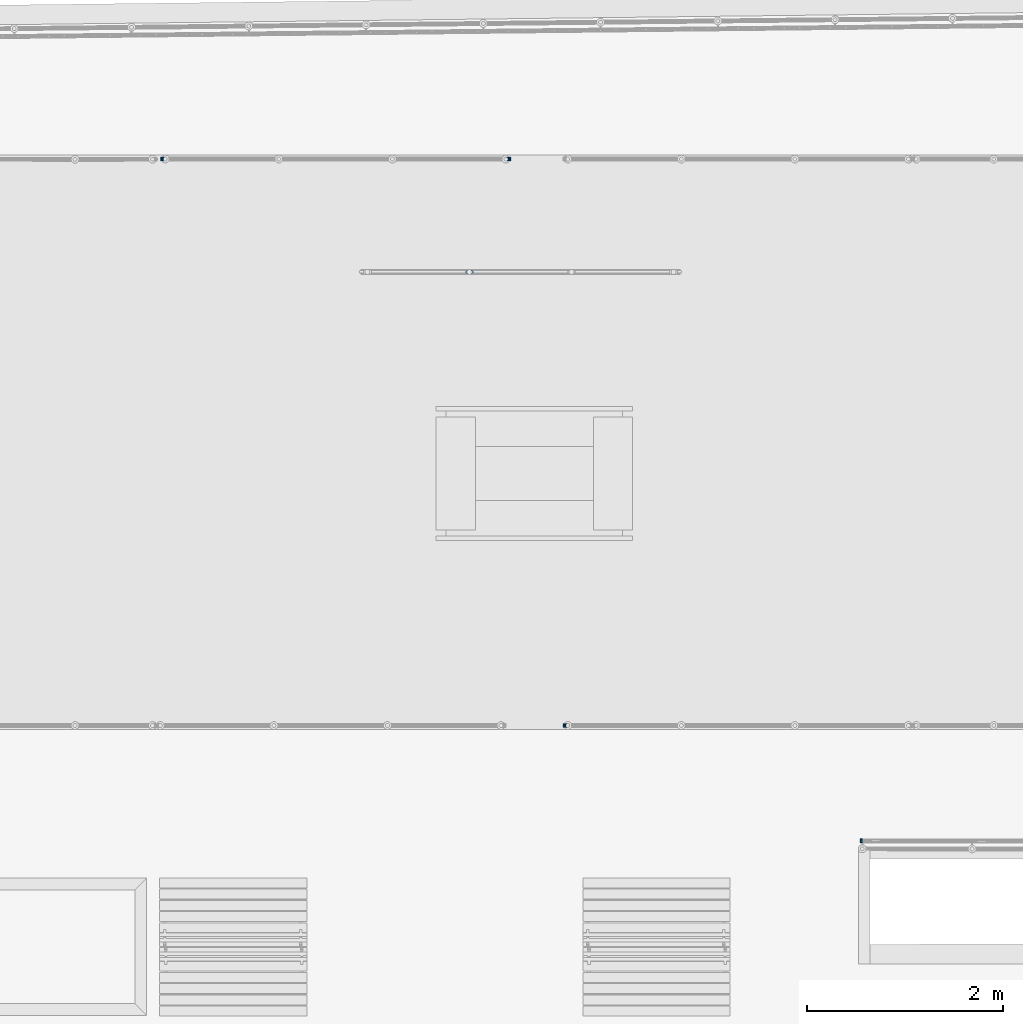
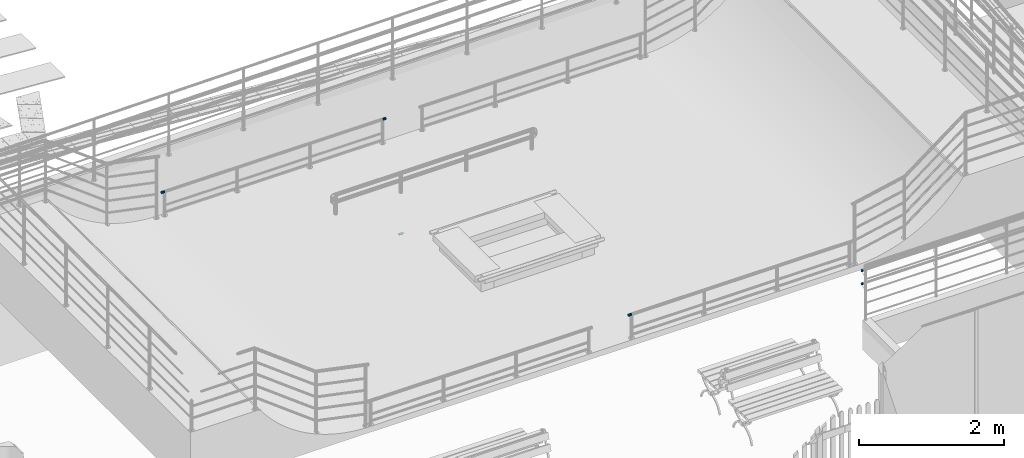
# One storey, part 141 of 237: 6 building element parts, 4 elements without a shape of their own.
"""IFC2X3 building model written with IfcOpenShell, lengths in millimetres."""

from ifc_helpers import new_model, entity, si_unit, converted_unit, derived_unit, money_unit, direction, frame, origin_with_axes, place, context, subcontext, project, spatial, faceted_brep, material, type_object, element, aggregate, save


model = new_model("IFC2X3")

# Units and contexts
model_context = context("Model", 3, precision=0.01, world=origin_with_axes(), true_north=direction((0.0, 1.0)))
body_context = subcontext(model_context, "Body", "Model", "MODEL_VIEW")
ifc_project = project(units=[si_unit("LENGTHUNIT", "METRE", prefix="MILLI"), si_unit("AREAUNIT", "SQUARE_METRE"), si_unit("VOLUMEUNIT", "CUBIC_METRE"), converted_unit("PLANEANGLEUNIT", "DEGREE", entity("IfcPlaneAngleMeasure", 0.0174532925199), si_unit("PLANEANGLEUNIT", "RADIAN"), dimensions=[0, 0, 0, 0, 0, 0, 0]), money_unit("USD"), converted_unit("TIMEUNIT", "Year", entity("IfcTimeMeasure", 31556926.0), si_unit("TIMEUNIT", "SECOND"), dimensions=[0, 0, 1, 0, 0, 0, 0]), si_unit("MASSUNIT", "GRAM", prefix="KILO"), si_unit("THERMODYNAMICTEMPERATUREUNIT", "DEGREE_CELSIUS"), si_unit("LUMINOUSINTENSITYUNIT", "LUMEN"), si_unit("ENERGYUNIT", "JOULE", prefix="MEGA"), derived_unit("THERMALCONDUCTANCEUNIT", [(si_unit("POWERUNIT", "WATT"), 1), (si_unit("LENGTHUNIT", "METRE"), -1), (si_unit("THERMODYNAMICTEMPERATUREUNIT", "KELVIN"), -1)]), derived_unit("SPECIFICHEATCAPACITYUNIT", [(si_unit("ENERGYUNIT", "JOULE"), 1), (si_unit("MASSUNIT", "GRAM", prefix="KILO"), -1), (si_unit("THERMODYNAMICTEMPERATUREUNIT", "KELVIN"), -1)]), derived_unit("MASSDENSITYUNIT", [(si_unit("MASSUNIT", "GRAM", prefix="KILO"), 1), (si_unit("VOLUMEUNIT", "CUBIC_METRE"), -1)])], contexts=[model_context])

# Site, building, storey
site_placement = place(None, origin_with_axes())
site = spatial("IfcSite", under=ifc_project, at=site_placement, Name="Local", CompositionType="ELEMENT")
building_placement = place(site_placement, origin_with_axes())
building = spatial("IfcBuilding", under=site, at=building_placement, Name="Construção", CompositionType="ELEMENT")
storey_placement = place(building_placement, origin_with_axes())
storey = spatial("IfcBuildingStorey", under=building, at=storey_placement, Name="Pavimento Térreo", CompositionType="ELEMENT", Elevation=0.0)

# Railing, building element parts
railing_type = type_object("IfcRailingType", Name="Tipo de Guarda-Corpo", PredefinedType="NOTDEFINED")
railing_1_placement = place(storey_placement, frame((57512.4440926, 33894.9362539, -1887.10818411), z_axis=(0.0, 0.0, 1.0), x_axis=(-1.0, 0.0, 0.0)))
railing_1 = element("IfcRailing", 1, at=railing_1_placement, inside=storey, type_object=railing_type, Name="Guarda-Corpo - 002", PredefinedType="NOTDEFINED")
ifc_material_1 = material(Name="Aço - Inoxidável")
building_element_part_1_placement = place(railing_1_placement, origin_with_axes())
building_element_part_1 = element("IfcBuildingElementPart", 2, at=building_element_part_1_placement, material=ifc_material_1, Name="Aço - Inoxidável", context=body_context, shape_type="Brep", body=[
    faceted_brep([(40.0, 20.0, 1030.0), (40.0, 20.3038449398, 1033.47296355), (-10.0, 20.3038449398, 1033.47296355), (-10.0, 20.0, 1030.0), (40.0, 20.3038449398, 1026.52703645), (40.0, 21.2061475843, 1023.15959713), (40.0, 22.6794919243, 1020.0), (40.0, 24.6791111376, 1017.14424781), (40.0, 27.1442478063, 1014.67911114), (40.0, 30.0, 1012.67949192), (40.0, 33.1595971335, 1011.20614758), (40.0, 36.5270364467, 1010.30384494), (40.0, 40.0, 1010.0), (40.0, 43.4729635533, 1010.30384494), (40.0, 46.8404028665, 1011.20614758), (40.0, 50.0, 1012.67949192), (40.0, 52.8557521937, 1014.67911114), (40.0, 55.3208888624, 1017.14424781), (40.0, 57.3205080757, 1020.0), (40.0, 58.7938524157, 1023.15959713), (40.0, 59.6961550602, 1026.52703645), (40.0, 60.0, 1030.0), (40.0, 59.6961550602, 1033.47296355), (40.0, 58.7938524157, 1036.84040287), (40.0, 57.3205080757, 1040.0), (40.0, 55.3208888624, 1042.85575219), (40.0, 52.8557521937, 1045.32088886), (40.0, 50.0, 1047.32050808), (40.0, 46.8404028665, 1048.79385242), (40.0, 43.4729635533, 1049.69615506), (40.0, 40.0, 1050.0), (40.0, 36.5270364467, 1049.69615506), (40.0, 33.1595971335, 1048.79385242), (40.0, 30.0, 1047.32050808), (40.0, 27.1442478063, 1045.32088886), (40.0, 24.6791111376, 1042.85575219), (40.0, 22.6794919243, 1040.0), (40.0, 21.2061475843, 1036.84040287), (-10.0, 21.2061475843, 1036.84040287), (-10.0, 22.6794919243, 1040.0), (-10.0, 24.6791111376, 1042.85575219), (-10.0, 27.1442478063, 1045.32088886), (-10.0, 30.0, 1047.32050808), (-10.0, 33.1595971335, 1048.79385242), (-10.0, 36.5270364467, 1049.69615506), (-10.0, 40.0, 1050.0), (-10.0, 43.4729635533, 1049.69615506), (-10.0, 46.8404028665, 1048.79385242), (-10.0, 50.0, 1047.32050808), (-10.0, 52.8557521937, 1045.32088886), (-10.0, 55.3208888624, 1042.85575219), (-10.0, 57.3205080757, 1040.0), (-10.0, 58.7938524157, 1036.84040287), (-10.0, 59.6961550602, 1033.47296355), (-10.0, 60.0, 1030.0), (-10.0, 59.6961550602, 1026.52703645), (-10.0, 58.7938524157, 1023.15959713), (-10.0, 57.3205080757, 1020.0), (-10.0, 55.3208888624, 1017.14424781), (-10.0, 52.8557521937, 1014.67911114), (-10.0, 50.0, 1012.67949192), (-10.0, 46.8404028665, 1011.20614758), (-10.0, 43.4729635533, 1010.30384494), (-10.0, 40.0, 1010.0), (-10.0, 36.5270364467, 1010.30384494), (-10.0, 33.1595971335, 1011.20614758), (-10.0, 30.0, 1012.67949192), (-10.0, 27.1442478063, 1014.67911114), (-10.0, 24.6791111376, 1017.14424781), (-10.0, 22.6794919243, 1020.0), (-10.0, 21.2061475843, 1023.15959713), (-10.0, 20.3038449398, 1026.52703645)], [[[0, 1, 2, 3]], [[0, 4, 5, 6, 7, 8, 9, 10, 11, 12, 13, 14, 15, 16, 17, 18, 19, 20, 21, 22, 23, 24, 25, 26, 27, 28, 29, 30, 31, 32, 33, 34, 35, 36, 37, 1]], [[1, 37, 38, 2]], [[3, 2, 38, 39, 40, 41, 42, 43, 44, 45, 46, 47, 48, 49, 50, 51, 52, 53, 54, 55, 56, 57, 58, 59, 60, 61, 62, 63, 64, 65, 66, 67, 68, 69, 70, 71]], [[4, 0, 3, 71]], [[5, 4, 71, 70]], [[6, 5, 70, 69]], [[7, 6, 69, 68]], [[8, 7, 68, 67]], [[9, 8, 67, 66]], [[10, 9, 66, 65]], [[11, 10, 65, 64]], [[12, 11, 64, 63]], [[13, 12, 63, 62]], [[14, 13, 62, 61]], [[15, 14, 61, 60]], [[16, 15, 60, 59]], [[17, 16, 59, 58]], [[18, 17, 58, 57]], [[19, 18, 57, 56]], [[20, 19, 56, 55]], [[21, 20, 55, 54]], [[22, 21, 54, 53]], [[23, 22, 53, 52]], [[24, 23, 52, 51]], [[25, 24, 51, 50]], [[26, 25, 50, 49]], [[27, 26, 49, 48]], [[28, 27, 48, 47]], [[29, 28, 47, 46]], [[30, 29, 46, 45]], [[31, 30, 45, 44]], [[32, 31, 44, 43]], [[33, 32, 43, 42]], [[34, 33, 42, 41]], [[35, 34, 41, 40]], [[36, 35, 40, 39]], [[37, 36, 39, 38]]]),
])
building_element_part_2_placement = place(railing_1_placement, origin_with_axes())
building_element_part_2 = element("IfcBuildingElementPart", 3, at=building_element_part_2_placement, material=ifc_material_1, Name="Aço - Inoxidável", context=body_context, shape_type="Brep", body=[
    faceted_brep([(3510.0, 60.0, 1030.0), (3510.0, 59.6961550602, 1033.47296355), (3560.0, 59.6961550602, 1033.47296355), (3560.0, 60.0, 1030.0), (3510.0, 59.6961550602, 1026.52703645), (3510.0, 58.7938524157, 1023.15959713), (3510.0, 57.3205080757, 1020.0), (3510.0, 55.3208888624, 1017.14424781), (3510.0, 52.8557521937, 1014.67911114), (3510.0, 50.0, 1012.67949192), (3510.0, 46.8404028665, 1011.20614758), (3510.0, 43.4729635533, 1010.30384494), (3510.0, 40.0, 1010.0), (3510.0, 36.5270364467, 1010.30384494), (3510.0, 33.1595971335, 1011.20614758), (3510.0, 30.0, 1012.67949192), (3510.0, 27.1442478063, 1014.67911114), (3510.0, 24.6791111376, 1017.14424781), (3510.0, 22.6794919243, 1020.0), (3510.0, 21.2061475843, 1023.15959713), (3510.0, 20.3038449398, 1026.52703645), (3510.0, 20.0, 1030.0), (3510.0, 20.3038449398, 1033.47296355), (3510.0, 21.2061475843, 1036.84040287), (3510.0, 22.6794919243, 1040.0), (3510.0, 24.6791111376, 1042.85575219), (3510.0, 27.1442478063, 1045.32088886), (3510.0, 30.0, 1047.32050808), (3510.0, 33.1595971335, 1048.79385242), (3510.0, 36.5270364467, 1049.69615506), (3510.0, 40.0, 1050.0), (3510.0, 43.4729635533, 1049.69615506), (3510.0, 46.8404028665, 1048.79385242), (3510.0, 50.0, 1047.32050808), (3510.0, 52.8557521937, 1045.32088886), (3510.0, 55.3208888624, 1042.85575219), (3510.0, 57.3205080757, 1040.0), (3510.0, 58.7938524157, 1036.84040287), (3560.0, 58.7938524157, 1036.84040287), (3560.0, 57.3205080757, 1040.0), (3560.0, 55.3208888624, 1042.85575219), (3560.0, 52.8557521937, 1045.32088886), (3560.0, 50.0, 1047.32050808), (3560.0, 46.8404028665, 1048.79385242), (3560.0, 43.4729635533, 1049.69615506), (3560.0, 40.0, 1050.0), (3560.0, 36.5270364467, 1049.69615506), (3560.0, 33.1595971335, 1048.79385242), (3560.0, 30.0, 1047.32050808), (3560.0, 27.1442478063, 1045.32088886), (3560.0, 24.6791111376, 1042.85575219), (3560.0, 22.6794919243, 1040.0), (3560.0, 21.2061475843, 1036.84040287), (3560.0, 20.3038449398, 1033.47296355), (3560.0, 20.0, 1030.0), (3560.0, 20.3038449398, 1026.52703645), (3560.0, 21.2061475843, 1023.15959713), (3560.0, 22.6794919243, 1020.0), (3560.0, 24.6791111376, 1017.14424781), (3560.0, 27.1442478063, 1014.67911114), (3560.0, 30.0, 1012.67949192), (3560.0, 33.1595971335, 1011.20614758), (3560.0, 36.5270364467, 1010.30384494), (3560.0, 40.0, 1010.0), (3560.0, 43.4729635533, 1010.30384494), (3560.0, 46.8404028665, 1011.20614758), (3560.0, 50.0, 1012.67949192), (3560.0, 52.8557521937, 1014.67911114), (3560.0, 55.3208888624, 1017.14424781), (3560.0, 57.3205080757, 1020.0), (3560.0, 58.7938524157, 1023.15959713), (3560.0, 59.6961550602, 1026.52703645)], [[[0, 1, 2, 3]], [[0, 4, 5, 6, 7, 8, 9, 10, 11, 12, 13, 14, 15, 16, 17, 18, 19, 20, 21, 22, 23, 24, 25, 26, 27, 28, 29, 30, 31, 32, 33, 34, 35, 36, 37, 1]], [[1, 37, 38, 2]], [[3, 2, 38, 39, 40, 41, 42, 43, 44, 45, 46, 47, 48, 49, 50, 51, 52, 53, 54, 55, 56, 57, 58, 59, 60, 61, 62, 63, 64, 65, 66, 67, 68, 69, 70, 71]], [[4, 0, 3, 71]], [[5, 4, 71, 70]], [[6, 5, 70, 69]], [[7, 6, 69, 68]], [[8, 7, 68, 67]], [[9, 8, 67, 66]], [[10, 9, 66, 65]], [[11, 10, 65, 64]], [[12, 11, 64, 63]], [[13, 12, 63, 62]], [[14, 13, 62, 61]], [[15, 14, 61, 60]], [[16, 15, 60, 59]], [[17, 16, 59, 58]], [[18, 17, 58, 57]], [[19, 18, 57, 56]], [[20, 19, 56, 55]], [[21, 20, 55, 54]], [[22, 21, 54, 53]], [[23, 22, 53, 52]], [[24, 23, 52, 51]], [[25, 24, 51, 50]], [[26, 25, 50, 49]], [[27, 26, 49, 48]], [[28, 27, 48, 47]], [[29, 28, 47, 46]], [[30, 29, 46, 45]], [[31, 30, 45, 44]], [[32, 31, 44, 43]], [[33, 32, 43, 42]], [[34, 33, 42, 41]], [[35, 34, 41, 40]], [[36, 35, 40, 39]], [[37, 36, 39, 38]]]),
])
aggregate(railing_1, [building_element_part_1, building_element_part_2])

# Railing, building element part
railing_2_placement = place(storey_placement, frame((58062.4440926, 28006.4497128, -1887.10818411), z_axis=(0.0, 0.0, 1.0), x_axis=(1.0, 0.0, 0.0)))
railing_2 = element("IfcRailing", 4, at=railing_2_placement, inside=storey, type_object=railing_type, Name="Guarda-Corpo - 002", PredefinedType="NOTDEFINED")
building_element_part_3_placement = place(railing_2_placement, origin_with_axes())
building_element_part_3 = element("IfcBuildingElementPart", 5, at=building_element_part_3_placement, material=ifc_material_1, Name="Aço - Inoxidável", context=body_context, shape_type="Brep", body=[
    faceted_brep([(40.0, 58.4865411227, 1030.0), (40.0, 58.7903860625, 1033.47296355), (-10.0, 58.7903860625, 1033.47296355), (-10.0, 58.4865411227, 1030.0), (40.0, 58.7903860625, 1026.52703645), (40.0, 59.692688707, 1023.15959713), (40.0, 61.166033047, 1020.0), (40.0, 63.1656522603, 1017.14424781), (40.0, 65.630788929, 1014.67911114), (40.0, 68.4865411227, 1012.67949192), (40.0, 71.6461382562, 1011.20614758), (40.0, 75.0135775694, 1010.30384494), (40.0, 78.4865411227, 1010.0), (40.0, 81.9595046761, 1010.30384494), (40.0, 85.3269439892, 1011.20614758), (40.0, 88.4865411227, 1012.67949192), (40.0, 91.3422933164, 1014.67911114), (40.0, 93.8074299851, 1017.14424781), (40.0, 95.8070491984, 1020.0), (40.0, 97.2803935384, 1023.15959713), (40.0, 98.182696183, 1026.52703645), (40.0, 98.4865411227, 1030.0), (40.0, 98.182696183, 1033.47296355), (40.0, 97.2803935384, 1036.84040287), (40.0, 95.8070491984, 1040.0), (40.0, 93.8074299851, 1042.85575219), (40.0, 91.3422933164, 1045.32088886), (40.0, 88.4865411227, 1047.32050808), (40.0, 85.3269439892, 1048.79385242), (40.0, 81.9595046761, 1049.69615506), (40.0, 78.4865411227, 1050.0), (40.0, 75.0135775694, 1049.69615506), (40.0, 71.6461382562, 1048.79385242), (40.0, 68.4865411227, 1047.32050808), (40.0, 65.630788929, 1045.32088886), (40.0, 63.1656522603, 1042.85575219), (40.0, 61.166033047, 1040.0), (40.0, 59.692688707, 1036.84040287), (-10.0, 59.692688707, 1036.84040287), (-10.0, 61.166033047, 1040.0), (-10.0, 63.1656522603, 1042.85575219), (-10.0, 65.630788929, 1045.32088886), (-10.0, 68.4865411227, 1047.32050808), (-10.0, 71.6461382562, 1048.79385242), (-10.0, 75.0135775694, 1049.69615506), (-10.0, 78.4865411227, 1050.0), (-10.0, 81.9595046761, 1049.69615506), (-10.0, 85.3269439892, 1048.79385242), (-10.0, 88.4865411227, 1047.32050808), (-10.0, 91.3422933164, 1045.32088886), (-10.0, 93.8074299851, 1042.85575219), (-10.0, 95.8070491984, 1040.0), (-10.0, 97.2803935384, 1036.84040287), (-10.0, 98.182696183, 1033.47296355), (-10.0, 98.4865411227, 1030.0), (-10.0, 98.182696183, 1026.52703645), (-10.0, 97.2803935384, 1023.15959713), (-10.0, 95.8070491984, 1020.0), (-10.0, 93.8074299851, 1017.14424781), (-10.0, 91.3422933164, 1014.67911114), (-10.0, 88.4865411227, 1012.67949192), (-10.0, 85.3269439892, 1011.20614758), (-10.0, 81.9595046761, 1010.30384494), (-10.0, 78.4865411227, 1010.0), (-10.0, 75.0135775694, 1010.30384494), (-10.0, 71.6461382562, 1011.20614758), (-10.0, 68.4865411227, 1012.67949192), (-10.0, 65.630788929, 1014.67911114), (-10.0, 63.1656522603, 1017.14424781), (-10.0, 61.166033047, 1020.0), (-10.0, 59.692688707, 1023.15959713), (-10.0, 58.7903860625, 1026.52703645)], [[[0, 1, 2, 3]], [[0, 4, 5, 6, 7, 8, 9, 10, 11, 12, 13, 14, 15, 16, 17, 18, 19, 20, 21, 22, 23, 24, 25, 26, 27, 28, 29, 30, 31, 32, 33, 34, 35, 36, 37, 1]], [[1, 37, 38, 2]], [[3, 2, 38, 39, 40, 41, 42, 43, 44, 45, 46, 47, 48, 49, 50, 51, 52, 53, 54, 55, 56, 57, 58, 59, 60, 61, 62, 63, 64, 65, 66, 67, 68, 69, 70, 71]], [[4, 0, 3, 71]], [[5, 4, 71, 70]], [[6, 5, 70, 69]], [[7, 6, 69, 68]], [[8, 7, 68, 67]], [[9, 8, 67, 66]], [[10, 9, 66, 65]], [[11, 10, 65, 64]], [[12, 11, 64, 63]], [[13, 12, 63, 62]], [[14, 13, 62, 61]], [[15, 14, 61, 60]], [[16, 15, 60, 59]], [[17, 16, 59, 58]], [[18, 17, 58, 57]], [[19, 18, 57, 56]], [[20, 19, 56, 55]], [[21, 20, 55, 54]], [[22, 21, 54, 53]], [[23, 22, 53, 52]], [[24, 23, 52, 51]], [[25, 24, 51, 50]], [[26, 25, 50, 49]], [[27, 26, 49, 48]], [[28, 27, 48, 47]], [[29, 28, 47, 46]], [[30, 29, 46, 45]], [[31, 30, 45, 44]], [[32, 31, 44, 43]], [[33, 32, 43, 42]], [[34, 33, 42, 41]], [[35, 34, 41, 40]], [[36, 35, 40, 39]], [[37, 36, 39, 38]]]),
])
aggregate(railing_2, [building_element_part_3])

# Railing, building element parts
railing_3_placement = place(storey_placement, frame((70326.6870103, 28675.2458388, -1357.10819655), z_axis=(0.0, 0.0, 1.0), x_axis=(1.0, 0.0, 0.0)))
railing_3 = element("IfcRailing", 6, at=railing_3_placement, inside=storey, type_object=railing_type, Name="Guarda-Corpo - 004", PredefinedType="NOTDEFINED")
building_element_part_4_placement = place(railing_3_placement, origin_with_axes())
building_element_part_4 = element("IfcBuildingElementPart", 7, at=building_element_part_4_placement, material=ifc_material_1, Name="Aço - Inoxidável", context=body_context, shape_type="Brep", body=[
    faceted_brep([(-9224.23455608, -1785.53730312, 680.0), (-9224.23407093, -1785.23345857, 683.472963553), (-9244.23404544, -1785.20152474, 683.472963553), (-9244.23453059, -1785.50536929, 680.0), (-9224.23407093, -1785.23345857, 676.527036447), (-9224.23263023, -1784.33115707, 673.159597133), (-9224.23027776, -1782.85781461, 670.0), (-9224.22708498, -1780.85819795, 667.144247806), (-9224.22314892, -1778.39306442, 664.679111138), (-9224.21858916, -1775.53731587, 662.679491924), (-9224.21354426, -1772.37772276, 661.206147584), (-9224.2081675, -1769.01028774, 660.30384494), (-9224.20262225, -1765.53732861, 660.0), (-9224.197077, -1762.06436949, 660.30384494), (-9224.19170024, -1758.69693447, 661.206147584), (-9224.18665533, -1755.53734136, 662.679491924), (-9224.18209558, -1752.68159281, 664.679111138), (-9224.17815952, -1750.21645928, 667.144247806), (-9224.17496674, -1748.21684262, 670.0), (-9224.17261427, -1746.74350015, 673.159597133), (-9224.17117357, -1745.84119866, 676.527036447), (-9224.17068842, -1745.53735411, 680.0), (-9224.17117357, -1745.84119866, 683.472963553), (-9224.17261427, -1746.74350015, 686.840402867), (-9224.17496674, -1748.21684262, 690.0), (-9224.17815952, -1750.21645928, 692.855752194), (-9224.18209558, -1752.68159281, 695.320888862), (-9224.18665533, -1755.53734136, 697.320508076), (-9224.19170024, -1758.69693447, 698.793852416), (-9224.197077, -1762.06436949, 699.69615506), (-9224.20262225, -1765.53732861, 700.0), (-9224.2081675, -1769.01028774, 699.69615506), (-9224.21354426, -1772.37772276, 698.793852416), (-9224.21858916, -1775.53731587, 697.320508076), (-9224.22314892, -1778.39306442, 695.320888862), (-9224.22708498, -1780.85819795, 692.855752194), (-9224.23027776, -1782.85781461, 690.0), (-9224.23263023, -1784.33115707, 686.840402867), (-9244.23260474, -1784.29922324, 686.840402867), (-9244.23025226, -1782.82588078, 690.0), (-9244.22705949, -1780.82626412, 692.855752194), (-9244.22312343, -1778.36113059, 695.320888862), (-9244.21856367, -1775.50538204, 697.320508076), (-9244.21351877, -1772.34578893, 698.793852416), (-9244.20814201, -1768.97835391, 699.69615506), (-9244.20259676, -1765.50539478, 700.0), (-9244.1970515, -1762.03243566, 699.69615506), (-9244.19167474, -1758.66500064, 698.793852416), (-9244.18662984, -1755.50540753, 697.320508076), (-9244.18207008, -1752.64965898, 695.320888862), (-9244.17813402, -1750.18452545, 692.855752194), (-9244.17494125, -1748.18490879, 690.0), (-9244.17258877, -1746.71156632, 686.840402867), (-9244.17114807, -1745.80926483, 683.472963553), (-9244.17066293, -1745.50542028, 680.0), (-9244.17114807, -1745.80926483, 676.527036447), (-9244.17258877, -1746.71156632, 673.159597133), (-9244.17494125, -1748.18490879, 670.0), (-9244.17813402, -1750.18452545, 667.144247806), (-9244.18207008, -1752.64965898, 664.679111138), (-9244.18662984, -1755.50540753, 662.679491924), (-9244.19167474, -1758.66500064, 661.206147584), (-9244.1970515, -1762.03243566, 660.30384494), (-9244.20259676, -1765.50539478, 660.0), (-9244.20814201, -1768.97835391, 660.30384494), (-9244.21351877, -1772.34578893, 661.206147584), (-9244.21856367, -1775.50538204, 662.679491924), (-9244.22312343, -1778.36113059, 664.679111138), (-9244.22705949, -1780.82626412, 667.144247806), (-9244.23025226, -1782.82588078, 670.0), (-9244.23260474, -1784.29922324, 673.159597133), (-9244.23404544, -1785.20152474, 676.527036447)], [[[0, 1, 2, 3]], [[0, 4, 5, 6, 7, 8, 9, 10, 11, 12, 13, 14, 15, 16, 17, 18, 19, 20, 21, 22, 23, 24, 25, 26, 27, 28, 29, 30, 31, 32, 33, 34, 35, 36, 37, 1]], [[1, 37, 38, 2]], [[3, 2, 38, 39, 40, 41, 42, 43, 44, 45, 46, 47, 48, 49, 50, 51, 52, 53, 54, 55, 56, 57, 58, 59, 60, 61, 62, 63, 64, 65, 66, 67, 68, 69, 70, 71]], [[4, 0, 3, 71]], [[5, 4, 71, 70]], [[6, 5, 70, 69]], [[7, 6, 69, 68]], [[8, 7, 68, 67]], [[9, 8, 67, 66]], [[10, 9, 66, 65]], [[11, 10, 65, 64]], [[12, 11, 64, 63]], [[13, 12, 63, 62]], [[14, 13, 62, 61]], [[15, 14, 61, 60]], [[16, 15, 60, 59]], [[17, 16, 59, 58]], [[18, 17, 58, 57]], [[19, 18, 57, 56]], [[20, 19, 56, 55]], [[21, 20, 55, 54]], [[22, 21, 54, 53]], [[23, 22, 53, 52]], [[24, 23, 52, 51]], [[25, 24, 51, 50]], [[26, 25, 50, 49]], [[27, 26, 49, 48]], [[28, 27, 48, 47]], [[29, 28, 47, 46]], [[30, 29, 46, 45]], [[31, 30, 45, 44]], [[32, 31, 44, 43]], [[33, 32, 43, 42]], [[34, 33, 42, 41]], [[35, 34, 41, 40]], [[36, 35, 40, 39]], [[37, 36, 39, 38]]]),
])
building_element_part_5_placement = place(railing_3_placement, origin_with_axes())
building_element_part_5 = element("IfcBuildingElementPart", 8, at=building_element_part_5_placement, material=ifc_material_1, Name="Aço - Inoxidável", context=body_context, shape_type="Brep", body=[
    faceted_brep([(-9224.23455608, -1785.53730312, 900.0), (-9224.23407093, -1785.23345857, 903.472963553), (-9244.23404544, -1785.20152474, 903.472963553), (-9244.23453059, -1785.50536929, 900.0), (-9224.23407093, -1785.23345857, 896.527036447), (-9224.23263023, -1784.33115707, 893.159597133), (-9224.23027776, -1782.85781461, 890.0), (-9224.22708498, -1780.85819795, 887.144247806), (-9224.22314892, -1778.39306442, 884.679111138), (-9224.21858916, -1775.53731587, 882.679491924), (-9224.21354426, -1772.37772276, 881.206147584), (-9224.2081675, -1769.01028774, 880.30384494), (-9224.20262225, -1765.53732861, 880.0), (-9224.197077, -1762.06436949, 880.30384494), (-9224.19170024, -1758.69693447, 881.206147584), (-9224.18665533, -1755.53734136, 882.679491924), (-9224.18209558, -1752.68159281, 884.679111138), (-9224.17815952, -1750.21645928, 887.144247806), (-9224.17496674, -1748.21684262, 890.0), (-9224.17261427, -1746.74350015, 893.159597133), (-9224.17117357, -1745.84119866, 896.527036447), (-9224.17068842, -1745.53735411, 900.0), (-9224.17117357, -1745.84119866, 903.472963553), (-9224.17261427, -1746.74350015, 906.840402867), (-9224.17496674, -1748.21684262, 910.0), (-9224.17815952, -1750.21645928, 912.855752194), (-9224.18209558, -1752.68159281, 915.320888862), (-9224.18665533, -1755.53734136, 917.320508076), (-9224.19170024, -1758.69693447, 918.793852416), (-9224.197077, -1762.06436949, 919.69615506), (-9224.20262225, -1765.53732861, 920.0), (-9224.2081675, -1769.01028774, 919.69615506), (-9224.21354426, -1772.37772276, 918.793852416), (-9224.21858916, -1775.53731587, 917.320508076), (-9224.22314892, -1778.39306442, 915.320888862), (-9224.22708498, -1780.85819795, 912.855752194), (-9224.23027776, -1782.85781461, 910.0), (-9224.23263023, -1784.33115707, 906.840402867), (-9244.23260474, -1784.29922324, 906.840402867), (-9244.23025226, -1782.82588078, 910.0), (-9244.22705949, -1780.82626412, 912.855752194), (-9244.22312343, -1778.36113059, 915.320888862), (-9244.21856367, -1775.50538204, 917.320508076), (-9244.21351877, -1772.34578893, 918.793852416), (-9244.20814201, -1768.97835391, 919.69615506), (-9244.20259676, -1765.50539478, 920.0), (-9244.1970515, -1762.03243566, 919.69615506), (-9244.19167474, -1758.66500064, 918.793852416), (-9244.18662984, -1755.50540753, 917.320508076), (-9244.18207008, -1752.64965898, 915.320888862), (-9244.17813402, -1750.18452545, 912.855752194), (-9244.17494125, -1748.18490879, 910.0), (-9244.17258877, -1746.71156632, 906.840402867), (-9244.17114807, -1745.80926483, 903.472963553), (-9244.17066293, -1745.50542028, 900.0), (-9244.17114807, -1745.80926483, 896.527036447), (-9244.17258877, -1746.71156632, 893.159597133), (-9244.17494125, -1748.18490879, 890.0), (-9244.17813402, -1750.18452545, 887.144247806), (-9244.18207008, -1752.64965898, 884.679111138), (-9244.18662984, -1755.50540753, 882.679491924), (-9244.19167474, -1758.66500064, 881.206147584), (-9244.1970515, -1762.03243566, 880.30384494), (-9244.20259676, -1765.50539478, 880.0), (-9244.20814201, -1768.97835391, 880.30384494), (-9244.21351877, -1772.34578893, 881.206147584), (-9244.21856367, -1775.50538204, 882.679491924), (-9244.22312343, -1778.36113059, 884.679111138), (-9244.22705949, -1780.82626412, 887.144247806), (-9244.23025226, -1782.82588078, 890.0), (-9244.23260474, -1784.29922324, 893.159597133), (-9244.23404544, -1785.20152474, 896.527036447)], [[[0, 1, 2, 3]], [[0, 4, 5, 6, 7, 8, 9, 10, 11, 12, 13, 14, 15, 16, 17, 18, 19, 20, 21, 22, 23, 24, 25, 26, 27, 28, 29, 30, 31, 32, 33, 34, 35, 36, 37, 1]], [[1, 37, 38, 2]], [[3, 2, 38, 39, 40, 41, 42, 43, 44, 45, 46, 47, 48, 49, 50, 51, 52, 53, 54, 55, 56, 57, 58, 59, 60, 61, 62, 63, 64, 65, 66, 67, 68, 69, 70, 71]], [[4, 0, 3, 71]], [[5, 4, 71, 70]], [[6, 5, 70, 69]], [[7, 6, 69, 68]], [[8, 7, 68, 67]], [[9, 8, 67, 66]], [[10, 9, 66, 65]], [[11, 10, 65, 64]], [[12, 11, 64, 63]], [[13, 12, 63, 62]], [[14, 13, 62, 61]], [[15, 14, 61, 60]], [[16, 15, 60, 59]], [[17, 16, 59, 58]], [[18, 17, 58, 57]], [[19, 18, 57, 56]], [[20, 19, 56, 55]], [[21, 20, 55, 54]], [[22, 21, 54, 53]], [[23, 22, 53, 52]], [[24, 23, 52, 51]], [[25, 24, 51, 50]], [[26, 25, 50, 49]], [[27, 26, 49, 48]], [[28, 27, 48, 47]], [[29, 28, 47, 46]], [[30, 29, 46, 45]], [[31, 30, 45, 44]], [[32, 31, 44, 43]], [[33, 32, 43, 42]], [[34, 33, 42, 41]], [[35, 34, 41, 40]], [[36, 35, 40, 39]], [[37, 36, 39, 38]]]),
])
aggregate(railing_3, [building_element_part_4, building_element_part_5])

# Railing, building element part
railing_4_placement = place(storey_placement, frame((56020.9807317, 32685.2089387, -1957.10819431), z_axis=(0.0, 0.0, 1.0), x_axis=(1.0, 0.0, 0.0)))
railing_4 = element("IfcRailing", 9, at=railing_4_placement, inside=storey, type_object=railing_type, Name="Guarda-Corpo - 001", PredefinedType="NOTDEFINED")
ifc_material_2 = material(Name="Alumínio")
building_element_part_6_placement = place(railing_4_placement, origin_with_axes())
building_element_part_6 = element("IfcBuildingElementPart", 10, at=building_element_part_6_placement, material=ifc_material_2, Name="Alumínio", context=body_context, shape_type="Brep", body=[
    faceted_brep([(1120.0, 20.0, 0.0), (1119.39231012, 23.4729635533, 0.0), (1119.39231012, 23.4729635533, 5.0), (1120.0, 20.0, 5.0), (1119.39231012, 16.5270364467, 0.0), (1117.58770483, 13.1595971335, 0.0), (1114.64101615, 10.0, 0.0), (1110.64177772, 7.14424780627, 0.0), (1105.71150439, 4.67911113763, 0.0), (1100.0, 2.67949192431, 0.0), (1093.68080573, 1.20614758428, 0.0), (1086.94592711, 0.303844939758, 0.0), (1080.0, 0.0, 0.0), (1073.05407289, 0.303844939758, 0.0), (1066.31919427, 1.20614758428, 0.0), (1060.0, 2.67949192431, 0.0), (1054.28849561, 4.67911113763, 0.0), (1049.35822228, 7.14424780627, 0.0), (1045.35898385, 10.0, 0.0), (1042.41229517, 13.1595971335, 0.0), (1040.60768988, 16.5270364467, 0.0), (1040.0, 20.0, 0.0), (1040.60768988, 23.4729635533, 0.0), (1042.41229517, 26.8404028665, 0.0), (1045.35898385, 30.0, 0.0), (1049.35822228, 32.8557521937, 0.0), (1054.28849561, 35.3208888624, 0.0), (1060.0, 37.3205080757, 0.0), (1066.31919427, 38.7938524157, 0.0), (1073.05407289, 39.6961550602, 0.0), (1080.0, 40.0, 0.0), (1086.94592711, 39.6961550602, 0.0), (1093.68080573, 38.7938524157, 0.0), (1100.0, 37.3205080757, 0.0), (1105.71150439, 35.3208888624, 0.0), (1110.64177772, 32.8557521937, 0.0), (1114.64101615, 30.0, 0.0), (1117.58770483, 26.8404028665, 0.0), (1117.58770483, 26.8404028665, 5.0), (1114.64101615, 30.0, 5.0), (1110.64177772, 32.8557521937, 5.0), (1105.71150439, 35.3208888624, 5.0), (1100.0, 37.3205080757, 5.0), (1093.68080573, 38.7938524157, 5.0), (1086.94592711, 39.6961550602, 5.0), (1080.0, 40.0, 5.0), (1073.05407289, 39.6961550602, 5.0), (1066.31919427, 38.7938524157, 5.0), (1060.0, 37.3205080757, 5.0), (1054.28849561, 35.3208888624, 5.0), (1049.35822228, 32.8557521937, 5.0), (1045.35898385, 30.0, 5.0), (1042.41229517, 26.8404028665, 5.0), (1040.60768988, 23.4729635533, 5.0), (1040.0, 20.0, 5.0), (1040.60768988, 16.5270364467, 5.0), (1042.41229517, 13.1595971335, 5.0), (1045.35898385, 10.0, 5.0), (1049.35822228, 7.14424780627, 5.0), (1054.28849561, 4.67911113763, 5.0), (1060.0, 2.67949192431, 5.0), (1066.31919427, 1.20614758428, 5.0), (1073.05407289, 0.303844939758, 5.0), (1080.0, 0.0, 5.0), (1086.94592711, 0.303844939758, 5.0), (1093.68080573, 1.20614758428, 5.0), (1100.0, 2.67949192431, 5.0), (1105.71150439, 4.67911113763, 5.0), (1110.64177772, 7.14424780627, 5.0), (1114.64101615, 10.0, 5.0), (1117.58770483, 13.1595971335, 5.0), (1119.39231012, 16.5270364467, 5.0)], [[[0, 1, 2, 3]], [[0, 4, 5, 6, 7, 8, 9, 10, 11, 12, 13, 14, 15, 16, 17, 18, 19, 20, 21, 22, 23, 24, 25, 26, 27, 28, 29, 30, 31, 32, 33, 34, 35, 36, 37, 1]], [[1, 37, 38, 2]], [[3, 2, 38, 39, 40, 41, 42, 43, 44, 45, 46, 47, 48, 49, 50, 51, 52, 53, 54, 55, 56, 57, 58, 59, 60, 61, 62, 63, 64, 65, 66, 67, 68, 69, 70, 71]], [[4, 0, 3, 71]], [[5, 4, 71, 70]], [[6, 5, 70, 69]], [[7, 6, 69, 68]], [[8, 7, 68, 67]], [[9, 8, 67, 66]], [[10, 9, 66, 65]], [[11, 10, 65, 64]], [[12, 11, 64, 63]], [[13, 12, 63, 62]], [[14, 13, 62, 61]], [[15, 14, 61, 60]], [[16, 15, 60, 59]], [[17, 16, 59, 58]], [[18, 17, 58, 57]], [[19, 18, 57, 56]], [[20, 19, 56, 55]], [[21, 20, 55, 54]], [[22, 21, 54, 53]], [[23, 22, 53, 52]], [[24, 23, 52, 51]], [[25, 24, 51, 50]], [[26, 25, 50, 49]], [[27, 26, 49, 48]], [[28, 27, 48, 47]], [[29, 28, 47, 46]], [[30, 29, 46, 45]], [[31, 30, 45, 44]], [[32, 31, 44, 43]], [[33, 32, 43, 42]], [[34, 33, 42, 41]], [[35, 34, 41, 40]], [[36, 35, 40, 39]], [[37, 36, 39, 38]]]),
])
aggregate(railing_4, [building_element_part_6])

save(model, "model.ifc")
